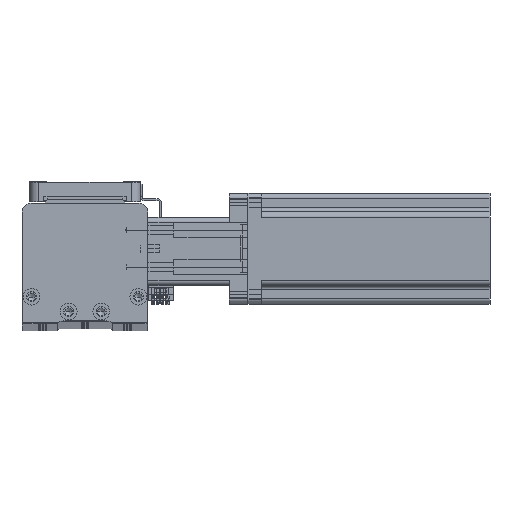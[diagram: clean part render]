
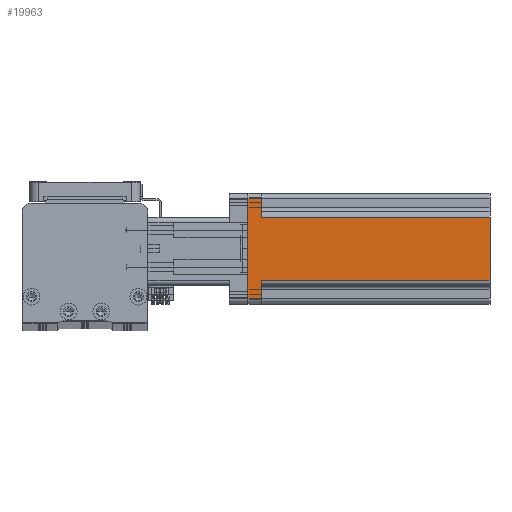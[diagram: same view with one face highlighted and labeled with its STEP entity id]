
A CAD part, top view. The second image highlights one B-rep face of the part: STEP entity #19963.
In plain terms, the highlighted planar face has unit normal (0, 0, 1) as drawn and (1, 0, 0) by its records, which use the part's own axes.
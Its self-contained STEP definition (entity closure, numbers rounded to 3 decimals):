
#774 = CARTESIAN_POINT ( 'NONE',  ( 30., -17., 130.7 ) ) ;
#1097 = LINE ( 'NONE', #38307, #33999 ) ;
#1501 = VERTEX_POINT ( 'NONE', #25454 ) ;
#1997 = DIRECTION ( 'NONE',  ( 0., 0., -1. ) ) ;
#3028 = DIRECTION ( 'NONE',  ( 0., 0., 1. ) ) ;
#3986 = VECTOR ( 'NONE', #51464, 1000. ) ;
#7668 = ORIENTED_EDGE ( 'NONE', *, *, #27007, .F. ) ;
#8463 = EDGE_CURVE ( 'NONE', #43924, #40308, #1097, .T. ) ;
#8928 = EDGE_CURVE ( 'NONE', #17099, #10074, #11728, .T. ) ;
#9519 = VECTOR ( 'NONE', #55285, 1000. ) ;
#10074 = VERTEX_POINT ( 'NONE', #12509 ) ;
#10561 = CARTESIAN_POINT ( 'NONE',  ( 30., -30., 7.5 ) ) ;
#10782 = DIRECTION ( 'NONE',  ( -1., 0., 0. ) ) ;
#11728 = LINE ( 'NONE', #54325, #44648 ) ;
#11886 = EDGE_CURVE ( 'NONE', #21584, #1501, #24732, .T. ) ;
#12349 = CARTESIAN_POINT ( 'NONE',  ( 30., 30., 7.5 ) ) ;
#12509 = CARTESIAN_POINT ( 'NONE',  ( 30., 27., 7.5 ) ) ;
#12552 = DIRECTION ( 'NONE',  ( 0., 0., 1. ) ) ;
#12622 = CARTESIAN_POINT ( 'NONE',  ( 30., -17., 7.5 ) ) ;
#13697 = ORIENTED_EDGE ( 'NONE', *, *, #33303, .T. ) ;
#14237 = ORIENTED_EDGE ( 'NONE', *, *, #8463, .T. ) ;
#14343 = CARTESIAN_POINT ( 'NONE',  ( 30., 17., 7.5 ) ) ;
#14841 = VECTOR ( 'NONE', #1997, 1000. ) ;
#15405 = LINE ( 'NONE', #29980, #3986 ) ;
#17099 = VERTEX_POINT ( 'NONE', #33561 ) ;
#18117 = ORIENTED_EDGE ( 'NONE', *, *, #53246, .F. ) ;
#19230 = DIRECTION ( 'NONE',  ( 0., -1., 0. ) ) ;
#19963 = ADVANCED_FACE ( 'NONE', ( #45515 ), #49010, .F. ) ;
#20590 = AXIS2_PLACEMENT_3D ( 'NONE', #36493, #10782, #40808 ) ;
#20938 = LINE ( 'NONE', #12349, #9519 ) ;
#21584 = VERTEX_POINT ( 'NONE', #45551 ) ;
#22442 = CARTESIAN_POINT ( 'NONE',  ( 30., -27., 130.7 ) ) ;
#23815 = ORIENTED_EDGE ( 'NONE', *, *, #8928, .T. ) ;
#24732 = LINE ( 'NONE', #22442, #44894 ) ;
#25454 = CARTESIAN_POINT ( 'NONE',  ( 30., -27., 0. ) ) ;
#25935 = LINE ( 'NONE', #40600, #46075 ) ;
#26262 = LINE ( 'NONE', #49026, #14841 ) ;
#27007 = EDGE_CURVE ( 'NONE', #43924, #10074, #20938, .T. ) ;
#27503 = ORIENTED_EDGE ( 'NONE', *, *, #28348, .T. ) ;
#27848 = DIRECTION ( 'NONE',  ( 0., 1., 0. ) ) ;
#27980 = ORIENTED_EDGE ( 'NONE', *, *, #11886, .T. ) ;
#28348 = EDGE_CURVE ( 'NONE', #43705, #21584, #31946, .T. ) ;
#29980 = CARTESIAN_POINT ( 'NONE',  ( 30., -30., 130.7 ) ) ;
#30604 = VECTOR ( 'NONE', #19230, 1000. ) ;
#31803 = EDGE_CURVE ( 'NONE', #1501, #17099, #25935, .T. ) ;
#31946 = LINE ( 'NONE', #10561, #30604 ) ;
#32144 = VERTEX_POINT ( 'NONE', #774 ) ;
#33303 = EDGE_CURVE ( 'NONE', #32144, #43705, #26262, .T. ) ;
#33561 = CARTESIAN_POINT ( 'NONE',  ( 30., 27., 0. ) ) ;
#33999 = VECTOR ( 'NONE', #12552, 1000. ) ;
#34045 = CARTESIAN_POINT ( 'NONE',  ( 30., 17., 130.7 ) ) ;
#36493 = CARTESIAN_POINT ( 'NONE',  ( 30., -30., 130.7 ) ) ;
#38307 = CARTESIAN_POINT ( 'NONE',  ( 30., 17., 130.7 ) ) ;
#40308 = VERTEX_POINT ( 'NONE', #34045 ) ;
#40600 = CARTESIAN_POINT ( 'NONE',  ( 30., -30., 0. ) ) ;
#40808 = DIRECTION ( 'NONE',  ( 0., 0., 1. ) ) ;
#43705 = VERTEX_POINT ( 'NONE', #12622 ) ;
#43819 = DIRECTION ( 'NONE',  ( 0., 0., -1. ) ) ;
#43924 = VERTEX_POINT ( 'NONE', #14343 ) ;
#44648 = VECTOR ( 'NONE', #3028, 1000. ) ;
#44894 = VECTOR ( 'NONE', #43819, 1000. ) ;
#45515 = FACE_OUTER_BOUND ( 'NONE', #47731, .T. ) ;
#45551 = CARTESIAN_POINT ( 'NONE',  ( 30., -27., 7.5 ) ) ;
#46075 = VECTOR ( 'NONE', #27848, 1000. ) ;
#47731 = EDGE_LOOP ( 'NONE', ( #18117, #13697, #27503, #27980, #49568, #23815, #7668, #14237 ) ) ;
#49010 = PLANE ( 'NONE',  #20590 ) ;
#49026 = CARTESIAN_POINT ( 'NONE',  ( 30., -17., 7.5 ) ) ;
#49568 = ORIENTED_EDGE ( 'NONE', *, *, #31803, .T. ) ;
#51464 = DIRECTION ( 'NONE',  ( 0., 1., 0. ) ) ;
#53246 = EDGE_CURVE ( 'NONE', #32144, #40308, #15405, .T. ) ;
#54325 = CARTESIAN_POINT ( 'NONE',  ( 30., 27., 130.7 ) ) ;
#55285 = DIRECTION ( 'NONE',  ( 0., 1., 0. ) ) ;
